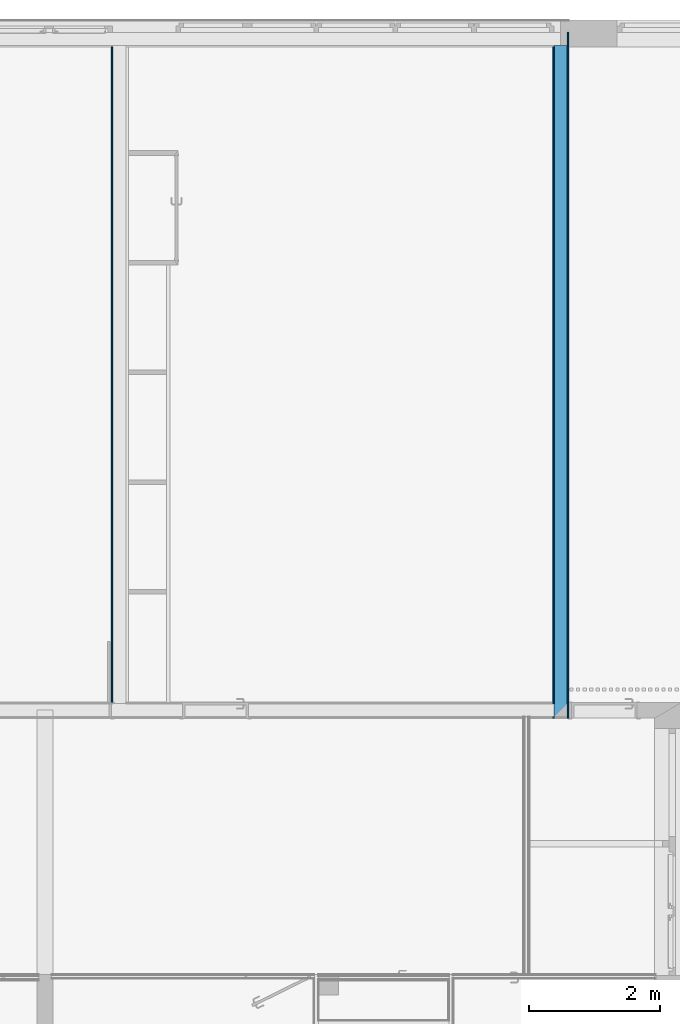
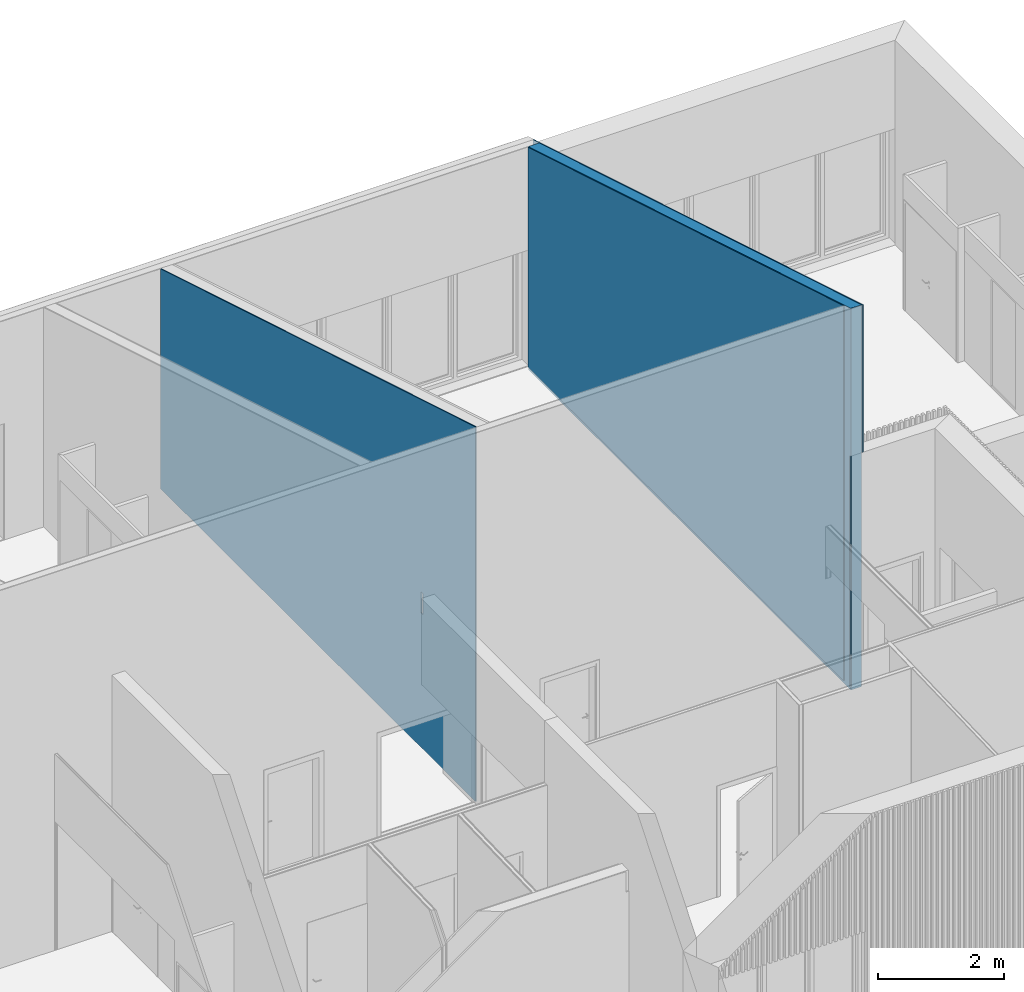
# One storey, part 34 of 34: 4 building element parts, 2 elements without a shape of their own.
"""IFC2X3 building model written with IfcOpenShell, lengths in metres."""

from ifc_helpers import new_model, entity, si_unit, converted_unit, derived_unit, money_unit, direction, frame, origin_with_axes, place, context, subcontext, project, spatial, polyline, outline, extrude, boolean, faceted_brep, material, type_object, element, aggregate, save


model = new_model("IFC2X3")

# Units and contexts
model_context = context("Model", 3, precision=1e-05, world=origin_with_axes(), true_north=direction((0.0, 1.0)))
body_context = subcontext(model_context, "Body", "Model", "MODEL_VIEW")
ifc_project = project(units=[si_unit("LENGTHUNIT", "METRE"), si_unit("AREAUNIT", "SQUARE_METRE"), si_unit("VOLUMEUNIT", "CUBIC_METRE"), converted_unit("PLANEANGLEUNIT", "DEGREE", entity("IfcPlaneAngleMeasure", 0.0174532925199), si_unit("PLANEANGLEUNIT", "RADIAN"), dimensions=[0, 0, 0, 0, 0, 0, 0]), money_unit("CHF"), converted_unit("TIMEUNIT", "Year", entity("IfcTimeMeasure", 31556926.0), si_unit("TIMEUNIT", "SECOND"), dimensions=[0, 0, 1, 0, 0, 0, 0]), si_unit("MASSUNIT", "GRAM", prefix="KILO"), si_unit("THERMODYNAMICTEMPERATUREUNIT", "DEGREE_CELSIUS"), si_unit("LUMINOUSINTENSITYUNIT", "LUMEN"), si_unit("ENERGYUNIT", "JOULE", prefix="MEGA"), derived_unit("THERMALCONDUCTANCEUNIT", [(si_unit("POWERUNIT", "WATT"), 1), (si_unit("LENGTHUNIT", "METRE"), -1), (si_unit("THERMODYNAMICTEMPERATUREUNIT", "KELVIN"), -1)]), derived_unit("SPECIFICHEATCAPACITYUNIT", [(si_unit("ENERGYUNIT", "JOULE"), 1), (si_unit("MASSUNIT", "GRAM", prefix="KILO"), -1), (si_unit("THERMODYNAMICTEMPERATUREUNIT", "KELVIN"), -1)]), derived_unit("MASSDENSITYUNIT", [(si_unit("MASSUNIT", "GRAM", prefix="KILO"), 1), (si_unit("VOLUMEUNIT", "CUBIC_METRE"), -1)])], contexts=[model_context])

# Site, building, storey
site_placement = place(None, origin_with_axes())
site = spatial("IfcSite", under=ifc_project, at=site_placement, Name="Site", CompositionType="ELEMENT")
building_placement = place(site_placement, origin_with_axes())
building = spatial("IfcBuilding", under=site, at=building_placement, Name="Bâtiment", CompositionType="ELEMENT")
storey_placement = place(building_placement, origin_with_axes())
storey = spatial("IfcBuildingStorey", under=building, at=storey_placement, Name="Rez-de-chaussée", CompositionType="ELEMENT", Elevation=0.0)

# Wall, building element part
wall_type_1 = type_object("IfcWallType", Name="Mur 20cm + enduit 2cm copie 260", PredefinedType="NOTDEFINED")
wall_1_placement = place(storey_placement, frame((25.3594697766, 25.2201256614, -0.21), z_axis=(0.0, 0.0, 1.0), x_axis=(0.0, -1.0, 0.0)))
wall_1 = element("IfcWall", 1, at=wall_1_placement, inside=storey, type_object=wall_type_1, Name="MUR_EXT-007")
ifc_material_1 = material(Name="Finition int - Enduit plâtre")
building_element_part_1_placement = place(wall_1_placement, origin_with_axes())
building_element_part_1 = element("IfcBuildingElementPart", 2, at=building_element_part_1_placement, material=ifc_material_1, Name="Finition int - Enduit plâtre", context=body_context, shape_type="CSG", body=[
    boolean("DIFFERENCE", boolean("DIFFERENCE", boolean("DIFFERENCE", boolean("DIFFERENCE", extrude(outline(polyline([(-0.29, 0.0), (10.3401256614, 0.0), (10.3401256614, 0.02), (-0.29, 0.02), (-0.29, 0.0)])), origin_with_axes(), (0.0, 0.0, 1.0), 7.64), faceted_brep([(8.45012566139, 0.22, 0.21), (8.45012566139, 0.22, 2.81), (8.38012566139, 0.22, 2.81), (8.38012566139, 0.22, 0.21), (8.45012566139, 0.259999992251, 0.21), (8.45012566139, 0.259999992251, 2.81), (8.45012566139, 0.24, 2.81), (8.38012566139, 0.24, 2.81), (8.38012566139, 0.259999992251, 2.81), (8.38012566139, 0.259999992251, 0.21), (10.3401256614, 0.26, 7.64), (10.3401256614, 0.26, 0.0), (-0.29, 0.26, 0.0), (-0.29, 0.26, 7.64), (1.70012566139, 0.259999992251, 0.21), (1.70012566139, 0.259999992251, 2.81), (0.12, 0.259999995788, 2.81), (0.12, 0.2599999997, 0.2), (10.1001256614, 0.259999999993, 0.2), (10.1001256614, 0.259999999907, 2.81), (6.78012566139, 0.259999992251, 2.81), (6.78012566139, 0.259999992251, 0.21), (6.71012566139, 0.259999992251, 0.21), (6.71012566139, 0.259999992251, 2.81), (5.11012566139, 0.259999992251, 2.81), (5.11012566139, 0.259999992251, 0.21), (5.04012566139, 0.259999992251, 0.21), (5.04012566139, 0.259999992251, 2.81), (3.44012566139, 0.259999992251, 2.81), (3.44012566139, 0.259999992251, 0.21), (3.37012566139, 0.259999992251, 0.21), (3.37012566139, 0.259999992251, 2.81), (1.77012566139, 0.259999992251, 2.81), (1.77012566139, 0.259999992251, 0.21), (10.1001256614, 0.259999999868, 4.01), (10.1001256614, 0.259999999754, 7.44821336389), (0.12, 0.259999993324, 4.45417566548), (0.12, 0.25999999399, 4.01), (10.1001256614, 0.24, 2.81), (0.12, 0.24, 2.81), (1.70012566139, 0.24, 2.81), (1.77012566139, 0.24, 2.81), (3.37012566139, 0.24, 2.81), (3.44012566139, 0.24, 2.81), (5.04012566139, 0.24, 2.81), (5.11012566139, 0.24, 2.81), (6.71012566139, 0.24, 2.81), (6.78012566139, 0.24, 2.81), (10.1001256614, 0.24, 4.01), (0.12, 0.24, 4.01), (10.3401256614, 0.22, 7.64), (10.3401256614, 0.22, 0.0), (-0.29, 0.22, 0.0), (-0.29, 0.22, 7.64), (1.70012566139, 0.22, 0.21), (1.70012566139, 0.22, 2.81), (0.12, 0.22, 4.45417566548), (0.12, 0.22, 0.2), (10.1001256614, 0.22, 0.2), (10.1001256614, 0.22, 7.44821336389), (6.78012566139, 0.22, 2.81), (6.78012566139, 0.22, 0.21), (6.71012566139, 0.22, 0.21), (6.71012566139, 0.22, 2.81), (5.11012566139, 0.22, 2.81), (5.11012566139, 0.22, 0.21), (5.04012566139, 0.22, 0.21), (5.04012566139, 0.22, 2.81), (3.44012566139, 0.22, 2.81), (3.44012566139, 0.22, 0.21), (3.37012566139, 0.22, 0.21), (3.37012566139, 0.22, 2.81), (1.77012566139, 0.22, 2.81), (1.77012566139, 0.22, 0.21)], [[[0, 1, 2, 3]], [[4, 5, 6, 1, 0]], [[2, 1, 6, 7]], [[8, 9, 3, 2, 7]], [[9, 4, 0, 3]], [[10, 11, 12, 13], [14, 15, 16, 17, 18, 19, 5, 4, 9, 8, 20, 21, 22, 23, 24, 25, 26, 27, 28, 29, 30, 31, 32, 33], [34, 35, 36, 37]], [[5, 19, 38, 6]], [[39, 40, 41, 42, 43, 44, 45, 46, 47, 7, 6, 38, 48, 49]], [[20, 8, 7, 47]], [[50, 51, 11, 10]], [[51, 52, 12, 11]], [[13, 12, 52, 53]], [[13, 53, 50, 10]], [[15, 14, 54, 55, 40]], [[16, 15, 40, 39]], [[37, 36, 56, 57, 17, 16, 39, 49]], [[18, 17, 57, 58]], [[35, 34, 48, 38, 19, 18, 58, 59]], [[21, 20, 47, 60, 61]], [[22, 21, 61, 62]], [[23, 22, 62, 63, 46]], [[24, 23, 46, 45]], [[25, 24, 45, 64, 65]], [[26, 25, 65, 66]], [[27, 26, 66, 67, 44]], [[28, 27, 44, 43]], [[29, 28, 43, 68, 69]], [[30, 29, 69, 70]], [[31, 30, 70, 71, 42]], [[32, 31, 42, 41]], [[33, 32, 41, 72, 73]], [[14, 33, 73, 54]], [[36, 35, 59, 56]], [[34, 37, 49, 48]], [[55, 72, 41, 40]], [[71, 68, 43, 42]], [[67, 64, 45, 44]], [[63, 60, 47, 46]], [[53, 52, 51, 50], [58, 57, 56, 59]], [[73, 72, 55, 54]], [[61, 60, 63, 62]], [[65, 64, 67, 66]], [[69, 68, 71, 70]]])), faceted_brep([(-0.29, 0.02, 7.64), (-0.29, 0.02, 0.0), (10.3401256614, 0.02, 0.0), (10.3401256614, 0.02, 7.64), (10.1201256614, 0.02, 0.13), (0.1, 0.02, 0.13), (0.1, 0.02, 4.44817566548), (0.12, 0.02, 4.45417566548), (10.1001256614, 0.02, 7.44821336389), (10.1201256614, 0.02, 7.45421336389), (-0.29, 0.22, 7.64), (-0.29, 0.22, 0.0), (10.3401256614, 0.22, 0.0), (10.3401256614, 0.22, 7.64), (10.1201256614, 0.22, 0.13), (0.1, 0.22, 0.13), (0.1, 0.22, 4.44817566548), (0.12, 0.22, 4.45417566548), (10.1001256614, 0.22, 7.44821336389), (10.1201256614, 0.22, 7.45421336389)], [[[0, 1, 2, 3], [4, 5, 6, 7, 8, 9]], [[10, 11, 1, 0]], [[2, 1, 11, 12]], [[3, 2, 12, 13]], [[10, 0, 3, 13]], [[14, 15, 5, 4]], [[15, 16, 6, 5]], [[16, 17, 18, 19, 9, 8, 7, 6]], [[19, 14, 4, 9]], [[13, 12, 11, 10], [18, 17, 16, 15, 14, 19]]])), faceted_brep([(8.43012566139, 0.0, 2.81), (8.43012566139, 0.0, 3.21), (8.38012566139, 0.0, 3.21), (8.38012566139, 0.0, 2.81), (8.43012566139, 0.02, 2.81), (8.43012566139, 0.02, 3.21), (8.38012566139, 0.02, 3.21), (8.38012566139, 0.02, 2.81)], [[[0, 1, 2, 3]], [[4, 5, 1, 0]], [[5, 6, 2, 1]], [[6, 7, 3, 2]], [[7, 4, 0, 3]], [[4, 7, 6, 5]]])), faceted_brep([(-0.29, 0.0, 7.64), (-0.29, 0.0, 0.0), (10.3401256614, 0.0, 0.0), (10.3401256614, 0.0, 7.64), (10.1001256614, 0.0, 0.2), (0.12, 0.0, 0.2), (0.12, 0.0, 4.45417566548), (10.1001256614, 0.0, 7.44821336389), (-0.29, 0.02, 7.64), (-0.29, 0.02, 0.0), (10.3401256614, 0.02, 0.0), (10.3401256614, 0.02, 7.64), (10.1001256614, 0.02, 0.2), (0.12, 0.02, 0.2), (0.12, 0.02, 4.45417566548), (10.1001256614, 0.02, 7.44821336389)], [[[0, 1, 2, 3], [4, 5, 6, 7]], [[8, 9, 1, 0]], [[2, 1, 9, 10]], [[3, 2, 10, 11]], [[8, 0, 3, 11]], [[12, 13, 5, 4]], [[13, 14, 6, 5]], [[14, 15, 7, 6]], [[15, 12, 4, 7]], [[11, 10, 9, 8], [12, 15, 14, 13]]])),
])
aggregate(wall_1, [building_element_part_1])

# Wall, building element parts
wall_type_2 = type_object("IfcWallType", Name="Mur 20cm + enduit 2cm 240", PredefinedType="NOTDEFINED")
wall_2_placement = place(storey_placement, frame((32.1994697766, 25.2201256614, -0.21), z_axis=(0.0, 0.0, 1.0), x_axis=(0.0, -1.0, 0.0)))
wall_2 = element("IfcWall", 3, at=wall_2_placement, inside=storey, type_object=wall_type_2, Name="MUR_EXT-007")
building_element_part_2_placement = place(wall_2_placement, origin_with_axes())
building_element_part_2 = element("IfcBuildingElementPart", 4, at=building_element_part_2_placement, material=ifc_material_1, Name="Finition int - Enduit plâtre", context=body_context, shape_type="CSG", body=[
    boolean("DIFFERENCE", boolean("DIFFERENCE", boolean("DIFFERENCE", extrude(outline(polyline([(-0.29, 0.1), (10.3401256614, 0.1), (10.3401256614, 0.12), (-0.29, 0.12), (-0.29, 0.1)])), origin_with_axes(), (0.0, 0.0, 1.0), 7.64), faceted_brep([(10.1201256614, 0.12, 4.67), (10.3401256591, 0.119999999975, 4.67), (10.3401256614, 0.12, 0.0), (-0.29, 0.12, 0.0), (-0.29, 0.12, 7.64), (10.3401256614, 0.12, 7.64), (10.3401256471, 0.119999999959, 7.52021335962), (-0.1, 0.12, 4.38817566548), (-0.1, 0.12, 4.17), (0.12, 0.12, 4.17), (0.12, 0.12, 0.2), (10.1201256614, 0.12, 0.2), (10.1201256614, 0.1, 4.67), (10.3401256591, 0.1, 4.67), (10.3401256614, 0.1, 0.0), (-0.29, 0.1, 0.0), (-0.29, 0.1, 7.64), (10.3401256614, 0.1, 7.64), (10.3401256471, 0.1, 7.52021335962), (10.3201256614, 0.1, 7.51421336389), (0.1, 0.1, 4.44817566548), (-0.1, 0.1, 4.38817566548), (-0.1, 0.1, 4.17), (0.12, 0.1, 4.17), (0.12, 0.1, 0.2), (10.1201256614, 0.1, 0.2)], [[[0, 1, 2, 3, 4, 5, 6, 7, 8, 9, 10, 11]], [[1, 0, 12, 13]], [[1, 13, 14, 2]], [[14, 15, 3, 2]], [[4, 3, 15, 16]], [[4, 16, 17, 5]], [[18, 6, 5, 17]], [[7, 6, 18, 19, 20, 21]], [[8, 7, 21, 22]], [[9, 8, 22, 23]], [[10, 9, 23, 24]], [[11, 10, 24, 25]], [[0, 11, 25, 12]], [[19, 18, 17, 16, 15, 14, 13, 12, 25, 24, 23, 22, 21, 20]]])), faceted_brep([(10.3401256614, -0.1, 7.64), (-0.29, -0.1, 7.64), (-0.29, -0.1, 0.0), (10.3401256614, -0.1, 0.0), (10.3201256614, -0.1, 0.13), (0.1, -0.1, 0.13), (0.1, -0.1, 4.17), (0.1, -0.1, 4.44817566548), (0.12, -0.1, 4.45417566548), (10.1201256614, -0.1, 7.45421336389), (10.3201256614, -0.1, 7.51421336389), (10.3401256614, 0.1, 7.64), (-0.29, 0.1, 7.64), (-0.29, 0.1, 0.0), (10.3401256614, 0.1, 0.0), (10.3201256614, 0.1, 0.13), (0.1, 0.1, 0.13), (0.1, 0.0, 0.13), (0.1, 0.0, 4.17), (0.1, 0.1, 4.44817566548), (10.3201256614, 0.1, 7.51421336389)], [[[0, 1, 2, 3], [4, 5, 6, 7, 8, 9, 10]], [[11, 12, 1, 0]], [[1, 12, 13, 2]], [[14, 3, 2, 13]], [[11, 0, 3, 14]], [[4, 15, 16, 17, 5]], [[18, 6, 5, 17]], [[16, 19, 7, 6, 18, 17]], [[7, 19, 20, 10, 9, 8]], [[10, 20, 15, 4]], [[12, 11, 14, 13], [16, 15, 20, 19]]])), faceted_brep([(10.3201256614, -0.1, 0.2), (10.3401256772, -0.1, 0.2), (10.3401256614, -0.1, 0.0), (-0.29, -0.1, 0.0), (-0.29, -0.1, 7.64), (10.3401256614, -0.1, 7.64), (10.3401256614, -0.1, 4.67), (10.3201256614, -0.1, 4.67), (0.12, -0.1, 0.2), (10.1201256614, -0.1, 0.2), (10.1201256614, -0.1, 7.45421336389), (0.12, -0.1, 4.45417566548), (10.3201256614, -0.12, 0.2), (10.3401256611, -0.12, 0.2), (10.3401256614, -0.12, 0.0), (-0.29, -0.12, 0.0), (-0.29, -0.12, 7.64), (10.3401256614, -0.12, 7.64), (10.3401256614, -0.12, 4.67), (10.3201256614, -0.12, 4.67), (10.1201256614, -0.12, 0.2), (0.12, -0.12, 0.2), (10.1201256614, -0.12, 7.45421336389), (0.12, -0.12, 4.45417566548)], [[[0, 1, 2, 3, 4, 5, 6, 7], [8, 9, 10, 11]], [[1, 0, 12, 13]], [[1, 13, 14, 2]], [[2, 14, 15, 3]], [[16, 4, 3, 15]], [[5, 4, 16, 17]], [[18, 6, 5, 17]], [[7, 6, 18, 19]], [[0, 7, 19, 12]], [[20, 9, 8, 21]], [[22, 10, 9, 20]], [[23, 11, 10, 22]], [[21, 8, 11, 23]], [[19, 18, 17, 16, 15, 14, 13, 12], [22, 20, 21, 23]]])),
])
ifc_material_2 = material(Name="Béton armé (Coulé)")
building_element_part_3_placement = place(wall_2_placement, origin_with_axes())
building_element_part_3 = element("IfcBuildingElementPart", 5, at=building_element_part_3_placement, material=ifc_material_2, Name="Béton armé (Coulé)", context=body_context, shape_type="CSG", body=[
    boolean("DIFFERENCE", boolean("DIFFERENCE", boolean("DIFFERENCE", extrude(outline(polyline([(-0.29, -0.1), (10.3401256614, -0.1), (10.3401256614, 0.1), (-0.29, 0.1), (-0.29, -0.1)])), origin_with_axes(), (0.0, 0.0, 1.0), 7.64), faceted_brep([(10.1201256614, 0.12, 4.67), (10.3401256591, 0.119999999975, 4.67), (10.3401256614, 0.12, 0.0), (-0.29, 0.12, 0.0), (-0.29, 0.12, 7.64), (10.3401256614, 0.12, 7.64), (10.3401256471, 0.119999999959, 7.52021335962), (-0.1, 0.12, 4.38817566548), (-0.1, 0.12, 4.17), (0.12, 0.12, 4.17), (0.12, 0.12, 0.2), (10.1201256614, 0.12, 0.2), (10.1201256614, 0.1, 4.67), (10.3401256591, 0.1, 4.67), (10.3401256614, 0.1, 0.0), (-0.29, 0.1, 0.0), (-0.29, 0.1, 7.64), (10.3401256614, 0.1, 7.64), (10.3401256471, 0.1, 7.52021335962), (10.3201256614, 0.1, 7.51421336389), (0.1, 0.1, 4.44817566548), (-0.1, 0.1, 4.38817566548), (-0.1, 0.1, 4.17), (0.12, 0.1, 4.17), (0.12, 0.1, 0.2), (10.1201256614, 0.1, 0.2)], [[[0, 1, 2, 3, 4, 5, 6, 7, 8, 9, 10, 11]], [[1, 0, 12, 13]], [[1, 13, 14, 2]], [[14, 15, 3, 2]], [[4, 3, 15, 16]], [[4, 16, 17, 5]], [[18, 6, 5, 17]], [[7, 6, 18, 19, 20, 21]], [[8, 7, 21, 22]], [[9, 8, 22, 23]], [[10, 9, 23, 24]], [[11, 10, 24, 25]], [[0, 11, 25, 12]], [[19, 18, 17, 16, 15, 14, 13, 12, 25, 24, 23, 22, 21, 20]]])), faceted_brep([(10.3401256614, -0.1, 7.64), (-0.29, -0.1, 7.64), (-0.29, -0.1, 0.0), (10.3401256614, -0.1, 0.0), (10.3201256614, -0.1, 0.13), (0.1, -0.1, 0.13), (0.1, -0.1, 4.17), (0.1, -0.1, 4.44817566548), (0.12, -0.1, 4.45417566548), (10.1201256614, -0.1, 7.45421336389), (10.3201256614, -0.1, 7.51421336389), (10.3401256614, 0.1, 7.64), (-0.29, 0.1, 7.64), (-0.29, 0.1, 0.0), (10.3401256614, 0.1, 0.0), (10.3201256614, 0.1, 0.13), (0.1, 0.1, 0.13), (0.1, 0.0, 0.13), (0.1, 0.0, 4.17), (0.1, 0.1, 4.44817566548), (10.3201256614, 0.1, 7.51421336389)], [[[0, 1, 2, 3], [4, 5, 6, 7, 8, 9, 10]], [[11, 12, 1, 0]], [[1, 12, 13, 2]], [[14, 3, 2, 13]], [[11, 0, 3, 14]], [[4, 15, 16, 17, 5]], [[18, 6, 5, 17]], [[16, 19, 7, 6, 18, 17]], [[7, 19, 20, 10, 9, 8]], [[10, 20, 15, 4]], [[12, 11, 14, 13], [16, 15, 20, 19]]])), faceted_brep([(10.3201256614, -0.1, 0.2), (10.3401256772, -0.1, 0.2), (10.3401256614, -0.1, 0.0), (-0.29, -0.1, 0.0), (-0.29, -0.1, 7.64), (10.3401256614, -0.1, 7.64), (10.3401256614, -0.1, 4.67), (10.3201256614, -0.1, 4.67), (0.12, -0.1, 0.2), (10.1201256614, -0.1, 0.2), (10.1201256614, -0.1, 7.45421336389), (0.12, -0.1, 4.45417566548), (10.3201256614, -0.12, 0.2), (10.3401256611, -0.12, 0.2), (10.3401256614, -0.12, 0.0), (-0.29, -0.12, 0.0), (-0.29, -0.12, 7.64), (10.3401256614, -0.12, 7.64), (10.3401256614, -0.12, 4.67), (10.3201256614, -0.12, 4.67), (10.1201256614, -0.12, 0.2), (0.12, -0.12, 0.2), (10.1201256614, -0.12, 7.45421336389), (0.12, -0.12, 4.45417566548)], [[[0, 1, 2, 3, 4, 5, 6, 7], [8, 9, 10, 11]], [[1, 0, 12, 13]], [[1, 13, 14, 2]], [[2, 14, 15, 3]], [[16, 4, 3, 15]], [[5, 4, 16, 17]], [[18, 6, 5, 17]], [[7, 6, 18, 19]], [[0, 7, 19, 12]], [[20, 9, 8, 21]], [[22, 10, 9, 20]], [[23, 11, 10, 22]], [[21, 8, 11, 23]], [[19, 18, 17, 16, 15, 14, 13, 12], [22, 20, 21, 23]]])),
])
building_element_part_4_placement = place(wall_2_placement, origin_with_axes())
building_element_part_4 = element("IfcBuildingElementPart", 6, at=building_element_part_4_placement, material=ifc_material_1, Name="Finition int - Enduit plâtre", context=body_context, shape_type="CSG", body=[
    boolean("DIFFERENCE", boolean("DIFFERENCE", boolean("DIFFERENCE", extrude(outline(polyline([(-0.29, -0.12), (10.3401256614, -0.12), (10.3401256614, -0.1), (-0.29, -0.1), (-0.29, -0.12)])), origin_with_axes(), (0.0, 0.0, 1.0), 7.64), faceted_brep([(10.1201256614, 0.12, 4.67), (10.3401256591, 0.119999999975, 4.67), (10.3401256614, 0.12, 0.0), (-0.29, 0.12, 0.0), (-0.29, 0.12, 7.64), (10.3401256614, 0.12, 7.64), (10.3401256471, 0.119999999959, 7.52021335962), (-0.1, 0.12, 4.38817566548), (-0.1, 0.12, 4.17), (0.12, 0.12, 4.17), (0.12, 0.12, 0.2), (10.1201256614, 0.12, 0.2), (10.1201256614, 0.1, 4.67), (10.3401256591, 0.1, 4.67), (10.3401256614, 0.1, 0.0), (-0.29, 0.1, 0.0), (-0.29, 0.1, 7.64), (10.3401256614, 0.1, 7.64), (10.3401256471, 0.1, 7.52021335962), (10.3201256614, 0.1, 7.51421336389), (0.1, 0.1, 4.44817566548), (-0.1, 0.1, 4.38817566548), (-0.1, 0.1, 4.17), (0.12, 0.1, 4.17), (0.12, 0.1, 0.2), (10.1201256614, 0.1, 0.2)], [[[0, 1, 2, 3, 4, 5, 6, 7, 8, 9, 10, 11]], [[1, 0, 12, 13]], [[1, 13, 14, 2]], [[14, 15, 3, 2]], [[4, 3, 15, 16]], [[4, 16, 17, 5]], [[18, 6, 5, 17]], [[7, 6, 18, 19, 20, 21]], [[8, 7, 21, 22]], [[9, 8, 22, 23]], [[10, 9, 23, 24]], [[11, 10, 24, 25]], [[0, 11, 25, 12]], [[19, 18, 17, 16, 15, 14, 13, 12, 25, 24, 23, 22, 21, 20]]])), faceted_brep([(10.3401256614, -0.1, 7.64), (-0.29, -0.1, 7.64), (-0.29, -0.1, 0.0), (10.3401256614, -0.1, 0.0), (10.3201256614, -0.1, 0.13), (0.1, -0.1, 0.13), (0.1, -0.1, 4.17), (0.1, -0.1, 4.44817566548), (0.12, -0.1, 4.45417566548), (10.1201256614, -0.1, 7.45421336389), (10.3201256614, -0.1, 7.51421336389), (10.3401256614, 0.1, 7.64), (-0.29, 0.1, 7.64), (-0.29, 0.1, 0.0), (10.3401256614, 0.1, 0.0), (10.3201256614, 0.1, 0.13), (0.1, 0.1, 0.13), (0.1, 0.0, 0.13), (0.1, 0.0, 4.17), (0.1, 0.1, 4.44817566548), (10.3201256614, 0.1, 7.51421336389)], [[[0, 1, 2, 3], [4, 5, 6, 7, 8, 9, 10]], [[11, 12, 1, 0]], [[1, 12, 13, 2]], [[14, 3, 2, 13]], [[11, 0, 3, 14]], [[4, 15, 16, 17, 5]], [[18, 6, 5, 17]], [[16, 19, 7, 6, 18, 17]], [[7, 19, 20, 10, 9, 8]], [[10, 20, 15, 4]], [[12, 11, 14, 13], [16, 15, 20, 19]]])), faceted_brep([(10.3201256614, -0.1, 0.2), (10.3401256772, -0.1, 0.2), (10.3401256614, -0.1, 0.0), (-0.29, -0.1, 0.0), (-0.29, -0.1, 7.64), (10.3401256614, -0.1, 7.64), (10.3401256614, -0.1, 4.67), (10.3201256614, -0.1, 4.67), (0.12, -0.1, 0.2), (10.1201256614, -0.1, 0.2), (10.1201256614, -0.1, 7.45421336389), (0.12, -0.1, 4.45417566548), (10.3201256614, -0.12, 0.2), (10.3401256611, -0.12, 0.2), (10.3401256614, -0.12, 0.0), (-0.29, -0.12, 0.0), (-0.29, -0.12, 7.64), (10.3401256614, -0.12, 7.64), (10.3401256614, -0.12, 4.67), (10.3201256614, -0.12, 4.67), (10.1201256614, -0.12, 0.2), (0.12, -0.12, 0.2), (10.1201256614, -0.12, 7.45421336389), (0.12, -0.12, 4.45417566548)], [[[0, 1, 2, 3, 4, 5, 6, 7], [8, 9, 10, 11]], [[1, 0, 12, 13]], [[1, 13, 14, 2]], [[2, 14, 15, 3]], [[16, 4, 3, 15]], [[5, 4, 16, 17]], [[18, 6, 5, 17]], [[7, 6, 18, 19]], [[0, 7, 19, 12]], [[20, 9, 8, 21]], [[22, 10, 9, 20]], [[23, 11, 10, 22]], [[21, 8, 11, 23]], [[19, 18, 17, 16, 15, 14, 13, 12], [22, 20, 21, 23]]])),
])
aggregate(wall_2, [building_element_part_2, building_element_part_3, building_element_part_4])

save(model, "model.ifc")
